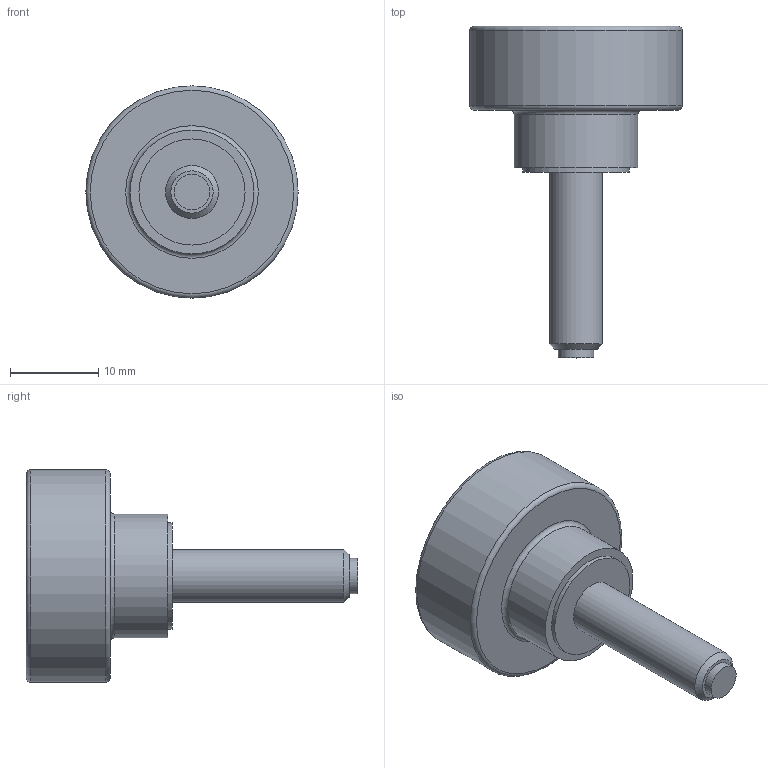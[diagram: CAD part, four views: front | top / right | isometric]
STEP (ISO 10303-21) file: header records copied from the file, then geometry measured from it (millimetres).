
FILE_DESCRIPTION( ( 'STEP AP203' ), '1' );
FILE_NAME( 'C:/Temp/Ganter_Step_05_03_2020/data/2_2/gn_421_10/Hollow knurled knob, with tip GN 421.10-M6-20-MS.stp', '2020-03-05T12:25:33', ( 'License CC BY-ND 4.0' ), ( 'CADENAS' ), ' ', 'PARTsolutions', ' ' );
FILE_SCHEMA( ( 'CONFIG_CONTROL_DESIGN' ) );
Length unit declared in the file: millimetre
Products named in the file (1): _Hollow knurled knob, with tip GN 421.10-M6-20-MS
Bounding box: 24 x 37.5 x 24 mm (x, y, z)
Volume: 4058.7 mm3; surface area: 2713.8 mm2
Topology: 1 solids, 1 shells, 19 faces, 30 edges, 19 vertices
Faces by surface type: plane 8, cylinder 7, torus 3, cone 1
Full cylindrical faces by diameter (mm): 4 x1, 6 x1, 10 x1, 12 x1, 14 x1, 20 x1, 24 x1
Entity records: 418 total; most frequent: DIRECTION 76, CARTESIAN_POINT 56, AXIS2_PLACEMENT_3D 38, EDGE_LOOP 36, ORIENTED_EDGE 36, FACE_OUTER_BOUND 29, ADVANCED_FACE 19, EDGE_CURVE 18
